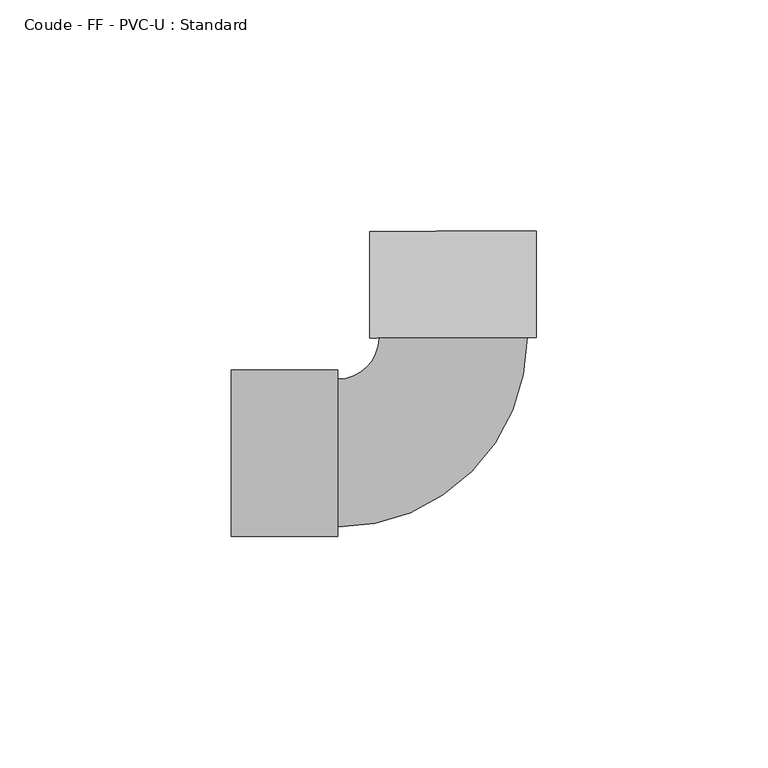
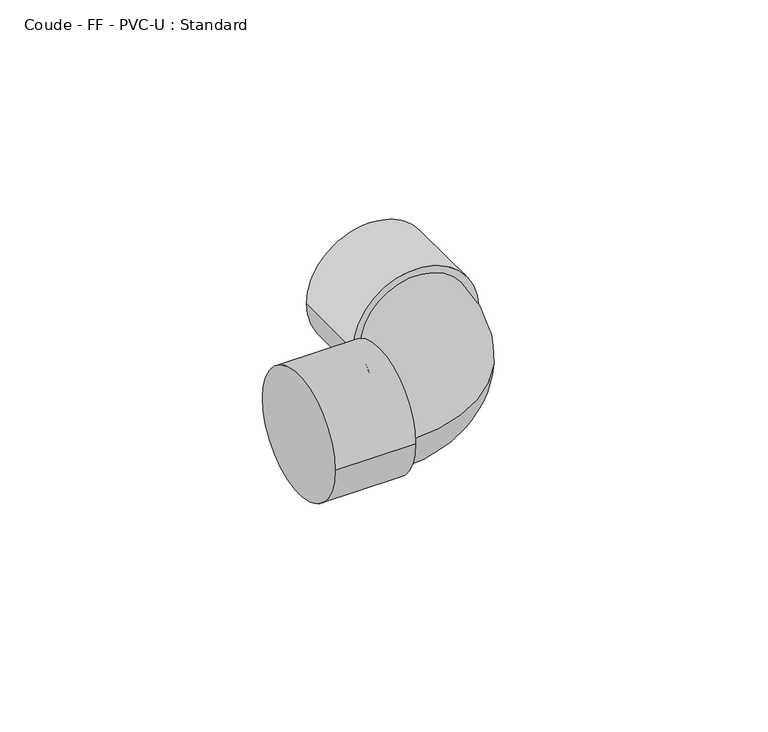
"""IFC4 building model written with IfcOpenShell, lengths in millimetres: pipe fitting geometry, Coude - FF - PVC-U : Standard."""

from ifc_helpers import new_model, si_unit, point, frame, origin, place, context, project, spatial, circle_curve, ellipse_curve, trimmed, source, transform, mapped, element, save
from ifc_brep_helpers import plane_surface, cylinder_surface, revolved_surface, advanced_brep


def coude_ff_pvc_u_standard_9e274030(model_context):
    return source(origin(), model_context, "Body", "AdvancedBrep", [
        advanced_brep(
        [(-48.0, -18.0, 0.0), (-48.0, 18.0, 0.0), (-25.0, -18.0, 0.0), (-25.0, 18.0, 0.0), (-25.0, -16.0, 0.0), (-25.0, 16.0, 0.0), (-16.0571403, 24.9633381, 0.0), (15.942776, 25.0365312, 0.0), (17.9427708, 25.0411057, 0.0), (-18.057135, 24.9587635, 0.0), (17.8901633, 48.0410456, 0.0), (-18.1097426, 47.9587033, 0.0)],
        [
            (0, 1, circle_curve(frame((-48.0, 0.0, 0.0), z_axis=(-1.0, 0.0, 0.0), x_axis=(0.0, 1.0, 0.0)), 18.0)),
            (1, 0, circle_curve(frame((-48.0, 0.0, 0.0), z_axis=(-1.0, 0.0, 0.0), x_axis=(0.0, 1.0, 0.0)), 18.0)),
            (2, 3, circle_curve(frame((-25.0, 0.0, 0.0), z_axis=(1.0, 0.0, 0.0), x_axis=(0.0, 1.0, 0.0)), 18.0)),
            (3, 2, circle_curve(frame((-25.0, 0.0, 0.0), z_axis=(1.0, 0.0, 0.0), x_axis=(0.0, 1.0, 0.0)), 18.0)),
            (4, 5, circle_curve(frame((-25.0, 0.0, 0.0), z_axis=(-1.0, 0.0, 0.0), x_axis=(0.0, 1.0, 0.0)), 16.0)),
            (5, 4, circle_curve(frame((-25.0, 0.0, 0.0), z_axis=(-1.0, 0.0, 0.0), x_axis=(0.0, 1.0, 0.0)), 16.0)),
            (0, 2),
            (3, 1),
            (6, 5, circle_curve(frame((-25.0, 24.9428831, 0.0), z_axis=(0.0, 0.0, -1.0), x_axis=(0.0, -1.0, 0.0)), 8.9428831)),
            (4, 7, circle_curve(frame((-25.0, 24.9428831, 0.0), z_axis=(0.0, 0.0, 1.0), x_axis=(0.0, -1.0, 0.0)), 40.9428831)),
            (7, 6, circle_curve(frame((-0.0571821, 24.9999346, 0.0), z_axis=(0.002287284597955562, -0.9999973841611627, 0.0), x_axis=(-0.9999973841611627, -0.002287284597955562, 0.0)), 16.0)),
            (6, 7, circle_curve(frame((-0.0571821, 24.9999346, 0.0), z_axis=(0.002287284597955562, -0.9999973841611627, 0.0), x_axis=(-0.9999973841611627, -0.002287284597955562, 0.0)), 16.0)),
            (8, 9, circle_curve(frame((-0.0571821, 24.9999346, 0.0), z_axis=(0.002287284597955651, -0.9999973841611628, 0.0), x_axis=(-0.9999973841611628, -0.002287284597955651, 0.0)), 18.0)),
            (9, 8, circle_curve(frame((-0.0571821, 24.9999346, 0.0), z_axis=(0.002287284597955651, -0.9999973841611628, 0.0), x_axis=(-0.9999973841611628, -0.002287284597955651, 0.0)), 18.0)),
            (10, 11, circle_curve(frame((-0.1097897, 47.9998744, 0.0), z_axis=(-0.002287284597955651, 0.9999973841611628, 0.0), x_axis=(-0.9999973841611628, -0.002287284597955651, 0.0)), 18.0)),
            (11, 10, circle_curve(frame((-0.1097897, 47.9998744, 0.0), z_axis=(-0.002287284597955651, 0.9999973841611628, 0.0), x_axis=(-0.9999973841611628, -0.002287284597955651, 0.0)), 18.0)),
            (8, 10),
            (11, 9),
        ],
        [
            plane_surface(frame((-48.0, 0.0, 0.0), z_axis=(-1.0, 0.0, 0.0), x_axis=(0.0, 0.0, 1.0))),
            plane_surface(frame((-25.0, 0.0, 0.0), z_axis=(1.0, 0.0, 0.0), x_axis=(0.0, 0.0, 1.0))),
            cylinder_surface(frame((-48.0, 0.0, 0.0), z_axis=(-1.0, 0.0, 0.0), x_axis=(0.0, 1.0, 0.0)), 18.0),
            revolved_surface(trimmed(ellipse_curve(frame((-25.0, 0.0, 0.0), z_axis=(-1.0, 0.0, 0.0), x_axis=(0.0, 1.0, 0.0)), 16.0, 16.0), [point((-25.0, -16.0, 0.0))], [point((-25.0, 16.0, 0.0))], True, "CARTESIAN"), (-25.0, 24.9428831, 0.0), (0.0, 0.0, 1.0)),
            revolved_surface(trimmed(ellipse_curve(frame((-25.0, 0.0, 0.0), z_axis=(-1.0, 0.0, 0.0), x_axis=(0.0, 1.0, 0.0)), 16.0, 16.0), [point((-25.0, 16.0, 0.0))], [point((-25.0, -16.0, 0.0))], True, "CARTESIAN"), (-25.0, 24.9428831, 0.0), (0.0, 0.0, 1.0)),
            plane_surface(frame((-0.0571821, 24.9999346, 0.0), z_axis=(0.0022872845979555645, -0.9999973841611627, 0.0), x_axis=(0.0, 0.0, 1.0))),
            plane_surface(frame((-0.1097897, 47.9998744, 0.0), z_axis=(-0.0022872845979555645, 0.9999973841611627, 0.0), x_axis=(0.0, 0.0, 1.0))),
            cylinder_surface(frame((-0.0571821, 24.9999346, 0.0), z_axis=(0.002287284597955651, -0.9999973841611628, 0.0), x_axis=(-0.9999973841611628, -0.002287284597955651, 0.0)), 18.0),
        ],
        [
            (0, [[1, 2]]),
            (1, [[3, 4], [5, 6]]),
            (2, [[-1, 7, -4, 8]]),
            (2, [[-2, -8, -3, -7]]),
            (3, [[9, -5, 10, 11]]),
            (4, [[-9, 12, -10, -6]]),
            (5, [[13, 14], [-11, -12]]),
            (6, [[15, 16]]),
            (7, [[-13, 17, -16, 18]]),
            (7, [[-14, -18, -15, -17]]),
        ],
    ),
    ])


if __name__ == "__main__":
    model = new_model("IFC4")
    model_context = context("Model", 3, world=origin())
    ifc_project = project(units=[si_unit("LENGTHUNIT", "METRE", prefix="MILLI")], contexts=[model_context])
    site = spatial("IfcSite", under=ifc_project)
    building = spatial("IfcBuilding", under=site)
    placement = place(None, origin())
    coude_ff_pvc_u_standard_shape = coude_ff_pvc_u_standard_9e274030(model_context)
    element("IfcPipeFitting", 1, ObjectType="Coude - FF - PVC-U : Standard", at=placement, inside=building, context=model_context, shape_type="MappedRepresentation", body=[
        mapped(coude_ff_pvc_u_standard_shape, transform((0.0, 0.0, 0.0), x_axis=(1.0, 0.0, 0.0), y_axis=(0.0, 1.0, 0.0), z_axis=(0.0, 0.0, 1.0))),
    ])
    save(model, "model.ifc")
